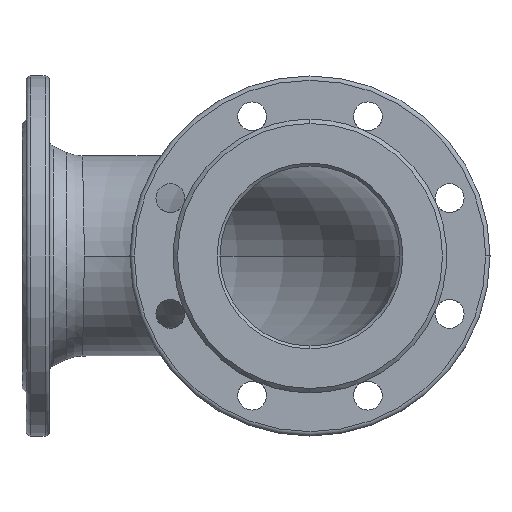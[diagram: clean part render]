
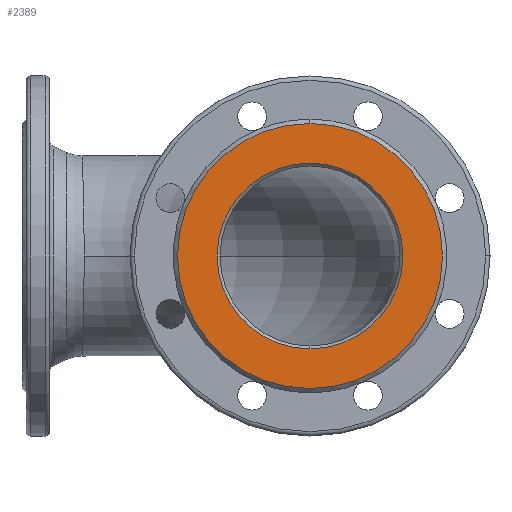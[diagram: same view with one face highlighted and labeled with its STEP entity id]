
A CAD part, front view. The second image highlights one B-rep face of the part: STEP entity #2389.
In plain terms, the highlighted planar face has unit normal (0, -1, 0).
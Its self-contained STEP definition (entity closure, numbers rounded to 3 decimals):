
#66 = VERTEX_POINT ( 'NONE', #7282 ) ;
#276 = DIRECTION ( 'NONE',  ( 0., -1., 0. ) ) ;
#374 = CARTESIAN_POINT ( 'NONE',  ( 200., -200., 0. ) ) ;
#508 = AXIS2_PLACEMENT_3D ( 'NONE', #7394, #276, #5035 ) ;
#559 = VERTEX_POINT ( 'NONE', #4674 ) ;
#596 = DIRECTION ( 'NONE',  ( 0., 1., 0. ) ) ;
#658 = DIRECTION ( 'NONE',  ( 1., 0., 0. ) ) ;
#796 = AXIS2_PLACEMENT_3D ( 'NONE', #2649, #4911, #7391 ) ;
#1060 = VERTEX_POINT ( 'NONE', #7604 ) ;
#1266 = AXIS2_PLACEMENT_3D ( 'NONE', #1937, #5383, #658 ) ;
#1488 = ORIENTED_EDGE ( 'NONE', *, *, #5311, .T. ) ;
#1613 = ORIENTED_EDGE ( 'NONE', *, *, #7052, .F. ) ;
#1937 = CARTESIAN_POINT ( 'NONE',  ( 200., -200., 0. ) ) ;
#2106 = FACE_BOUND ( 'NONE', #3868, .T. ) ;
#2389 = ADVANCED_FACE ( 'Defeatured_0_5', ( #2106, #3827 ), #5617, .T. ) ;
#2634 = CIRCLE ( 'NONE', #1266, 64.5 ) ;
#2649 = CARTESIAN_POINT ( 'NONE',  ( 200., -200., 0. ) ) ;
#2884 = CIRCLE ( 'NONE', #4006, 92. ) ;
#3056 = VERTEX_POINT ( 'NONE', #4896 ) ;
#3128 = CIRCLE ( 'NONE', #4257, 64.5 ) ;
#3408 = ORIENTED_EDGE ( 'NONE', *, *, #5333, .F. ) ;
#3599 = DIRECTION ( 'NONE',  ( 0., 0., 1. ) ) ;
#3684 = EDGE_CURVE ( 'Defeatured_0_5+Defeatured_0_110+Defeatured_0_110+Defeatured_0_110', #66, #559, #2634, .T. ) ;
#3827 = FACE_OUTER_BOUND ( 'NONE', #5950, .T. ) ;
#3868 = EDGE_LOOP ( 'NONE', ( #1488, #4724 ) ) ;
#4006 = AXIS2_PLACEMENT_3D ( 'NONE', #7126, #596, #3599 ) ;
#4257 = AXIS2_PLACEMENT_3D ( 'NONE', #374, #7666, #5319 ) ;
#4674 = CARTESIAN_POINT ( 'NONE',  ( 200., -200., -64.5 ) ) ;
#4724 = ORIENTED_EDGE ( 'NONE', *, *, #3684, .T. ) ;
#4896 = CARTESIAN_POINT ( 'NONE',  ( 200., -200., 92. ) ) ;
#4911 = DIRECTION ( 'NONE',  ( 0., 1., 0. ) ) ;
#5035 = DIRECTION ( 'NONE',  ( 0., 0., -1. ) ) ;
#5311 = EDGE_CURVE ( 'Defeatured_0_5+Defeatured_0_110+Defeatured_0_110+Defeatured_0_110', #559, #66, #3128, .T. ) ;
#5319 = DIRECTION ( 'NONE',  ( 1., 0., 0. ) ) ;
#5333 = EDGE_CURVE ( 'Defeatured_0_14+Defeatured_0_5+Defeatured_0_5+Defeatured_0_5', #1060, #3056, #2884, .T. ) ;
#5383 = DIRECTION ( 'NONE',  ( 0., 1., 0. ) ) ;
#5417 = CIRCLE ( 'NONE', #796, 92. ) ;
#5617 = PLANE ( 'NONE',  #508 ) ;
#5950 = EDGE_LOOP ( 'NONE', ( #3408, #1613 ) ) ;
#7052 = EDGE_CURVE ( 'Defeatured_0_14+Defeatured_0_5+Defeatured_0_5+Defeatured_0_5', #3056, #1060, #5417, .T. ) ;
#7126 = CARTESIAN_POINT ( 'NONE',  ( 200., -200., 0. ) ) ;
#7282 = CARTESIAN_POINT ( 'NONE',  ( 200., -200., 64.5 ) ) ;
#7391 = DIRECTION ( 'NONE',  ( 0., 0., 1. ) ) ;
#7394 = CARTESIAN_POINT ( 'NONE',  ( 200., -200., 0. ) ) ;
#7604 = CARTESIAN_POINT ( 'NONE',  ( 200., -200., -92. ) ) ;
#7666 = DIRECTION ( 'NONE',  ( 0., 1., 0. ) ) ;
